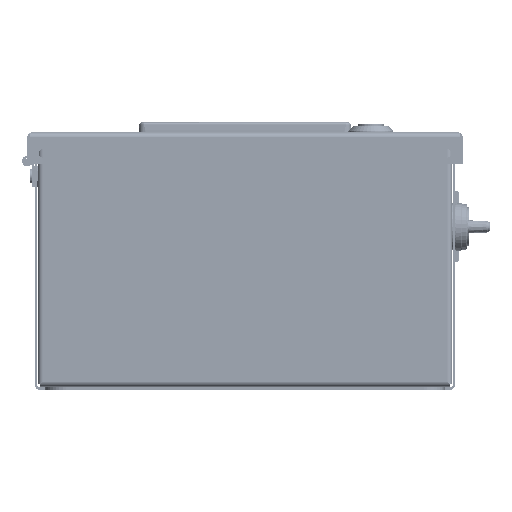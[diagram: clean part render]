
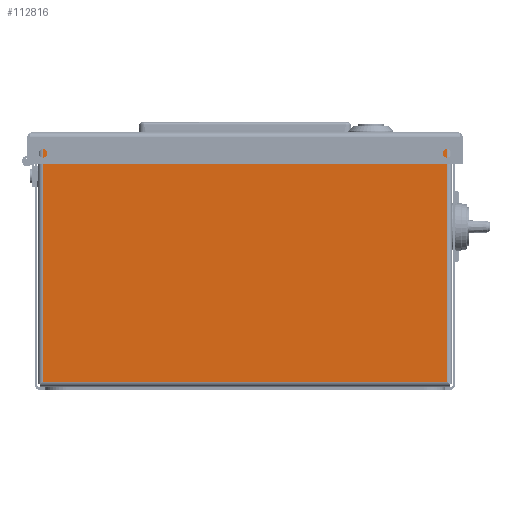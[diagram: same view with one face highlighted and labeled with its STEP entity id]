
A CAD part, front view. The second image highlights one B-rep face of the part: STEP entity #112816.
In plain terms, the highlighted planar face has unit normal (0, -1, 0).
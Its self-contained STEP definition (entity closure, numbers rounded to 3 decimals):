
#6255=FACE_OUTER_BOUND('',#12363,.T.);
#12363=EDGE_LOOP('',(#78872,#78873,#78874,#78875,#78876,#78877));
#20782=LINE('',#172728,#32656);
#20804=LINE('',#172785,#32678);
#20805=LINE('',#172788,#32679);
#20806=LINE('',#172789,#32680);
#20807=LINE('',#172791,#32681);
#20808=LINE('',#172792,#32682);
#32656=VECTOR('',#133328,0.394);
#32678=VECTOR('',#133384,0.394);
#32679=VECTOR('',#133387,0.394);
#32680=VECTOR('',#133388,39.37);
#32681=VECTOR('',#133389,39.37);
#32682=VECTOR('',#133390,0.394);
#45822=VERTEX_POINT('',#172725);
#45823=VERTEX_POINT('',#172727);
#45838=VERTEX_POINT('',#172778);
#45841=VERTEX_POINT('',#172783);
#45842=VERTEX_POINT('',#172787);
#45843=VERTEX_POINT('',#172790);
#57920=EDGE_CURVE('',#45822,#45823,#20782,.T.);
#57949=EDGE_CURVE('',#45841,#45838,#20804,.T.);
#57950=EDGE_CURVE('',#45842,#45822,#20805,.T.);
#57951=EDGE_CURVE('',#45842,#45838,#20806,.T.);
#57952=EDGE_CURVE('',#45841,#45843,#20807,.T.);
#57953=EDGE_CURVE('',#45823,#45843,#20808,.T.);
#78872=ORIENTED_EDGE('',*,*,#57920,.F.);
#78873=ORIENTED_EDGE('',*,*,#57950,.F.);
#78874=ORIENTED_EDGE('',*,*,#57951,.T.);
#78875=ORIENTED_EDGE('',*,*,#57949,.F.);
#78876=ORIENTED_EDGE('',*,*,#57952,.T.);
#78877=ORIENTED_EDGE('',*,*,#57953,.F.);
#102440=PLANE('',#119294);
#112816=ADVANCED_FACE('',(#6255),#102440,.T.);
#119294=AXIS2_PLACEMENT_3D('',#172786,#133385,#133386);
#133328=DIRECTION('',(-1.,0.,0.));
#133384=DIRECTION('',(1.,0.,0.));
#133385=DIRECTION('center_axis',(0.,-1.,0.));
#133386=DIRECTION('ref_axis',(1.,0.,0.));
#133387=DIRECTION('',(0.,0.,-1.));
#133388=DIRECTION('',(-1.,0.,0.));
#133389=DIRECTION('',(-1.,0.,0.));
#133390=DIRECTION('',(0.,0.,1.));
#172725=CARTESIAN_POINT('',(4.805,-6.,0.195));
#172727=CARTESIAN_POINT('',(-4.805,-6.,0.195));
#172728=CARTESIAN_POINT('',(-5.867,-6.,0.195));
#172778=CARTESIAN_POINT('',(4.41,-6.,5.89));
#172783=CARTESIAN_POINT('',(-4.41,-6.,5.89));
#172785=CARTESIAN_POINT('',(-0.229,-6.,5.89));
#172786=CARTESIAN_POINT('Origin',(-5.867,-6.,-0.867));
#172787=CARTESIAN_POINT('',(4.805,-6.,5.89));
#172788=CARTESIAN_POINT('',(4.805,-6.,3.012));
#172789=CARTESIAN_POINT('',(4.867,-6.,5.89));
#172790=CARTESIAN_POINT('',(-4.805,-6.,5.89));
#172791=CARTESIAN_POINT('',(6.867,-6.,5.89));
#172792=CARTESIAN_POINT('',(-4.805,-6.,-0.836));
